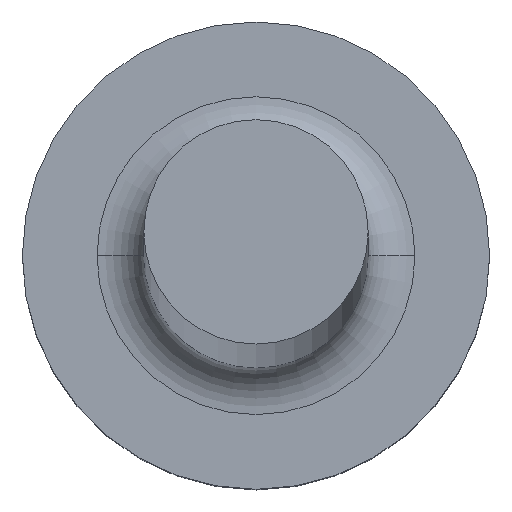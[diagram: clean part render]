
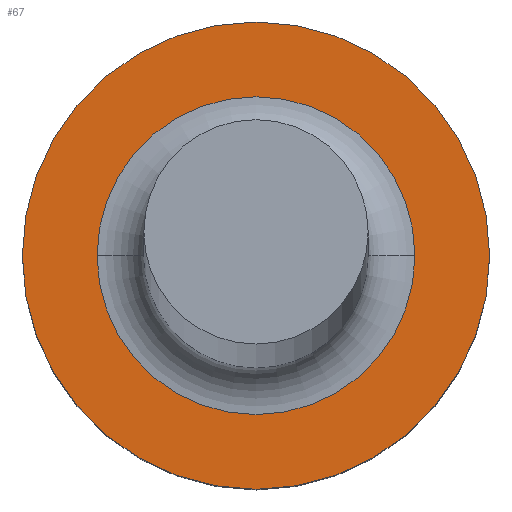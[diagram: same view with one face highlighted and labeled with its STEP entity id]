
A CAD part, top view. The second image highlights one B-rep face of the part: STEP entity #67.
In plain terms, the highlighted planar face has unit normal (0, 0, 1).
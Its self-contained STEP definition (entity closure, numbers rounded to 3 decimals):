
#2 = EDGE_CURVE ( 'NONE', #231, #187, #31, .T. ) ;
#3 = DIRECTION ( 'NONE',  ( -1., 0., 0. ) ) ;
#20 = AXIS2_PLACEMENT_3D ( 'NONE', #26, #47, #83 ) ;
#23 = CARTESIAN_POINT ( 'NONE',  ( 0., 0., 4. ) ) ;
#26 = CARTESIAN_POINT ( 'NONE',  ( 0., 0., 4. ) ) ;
#31 = CIRCLE ( 'NONE', #42, 2.5 ) ;
#35 = EDGE_CURVE ( 'NONE', #44, #251, #185, .T. ) ;
#37 = FACE_BOUND ( 'NONE', #227, .T. ) ;
#42 = AXIS2_PLACEMENT_3D ( 'NONE', #148, #211, #213 ) ;
#44 = VERTEX_POINT ( 'NONE', #111 ) ;
#46 = AXIS2_PLACEMENT_3D ( 'NONE', #193, #86, #3 ) ;
#47 = DIRECTION ( 'NONE',  ( 0., 0., -1. ) ) ;
#55 = CARTESIAN_POINT ( 'NONE',  ( 2.5, 0., 4. ) ) ;
#60 = ORIENTED_EDGE ( 'NONE', *, *, #80, .T. ) ;
#62 = ORIENTED_EDGE ( 'NONE', *, *, #2, .F. ) ;
#63 = AXIS2_PLACEMENT_3D ( 'NONE', #23, #69, #89 ) ;
#67 = ADVANCED_FACE ( 'NONE', ( #37, #71 ), #168, .F. ) ;
#69 = DIRECTION ( 'NONE',  ( 0., 0., -1. ) ) ;
#71 = FACE_OUTER_BOUND ( 'NONE', #96, .T. ) ;
#80 = EDGE_CURVE ( 'NONE', #251, #44, #268, .T. ) ;
#83 = DIRECTION ( 'NONE',  ( -1., 0., 0. ) ) ;
#86 = DIRECTION ( 'NONE',  ( 0., 0., -1. ) ) ;
#89 = DIRECTION ( 'NONE',  ( -1., 0., 0. ) ) ;
#96 = EDGE_LOOP ( 'NONE', ( #62, #143 ) ) ;
#111 = CARTESIAN_POINT ( 'NONE',  ( 1.7, 0., 4. ) ) ;
#119 = CARTESIAN_POINT ( 'NONE',  ( 0., 0., 4. ) ) ;
#143 = ORIENTED_EDGE ( 'NONE', *, *, #270, .F. ) ;
#148 = CARTESIAN_POINT ( 'NONE',  ( 0., 0., 4. ) ) ;
#150 = CARTESIAN_POINT ( 'NONE',  ( -1.7, 0., 4. ) ) ;
#156 = DIRECTION ( 'NONE',  ( -1., 0., 0. ) ) ;
#168 = PLANE ( 'NONE',  #46 ) ;
#184 = DIRECTION ( 'NONE',  ( 0., 0., -1. ) ) ;
#185 = CIRCLE ( 'NONE', #20, 1.7 ) ;
#187 = VERTEX_POINT ( 'NONE', #55 ) ;
#193 = CARTESIAN_POINT ( 'NONE',  ( 2.5, 0., 4. ) ) ;
#211 = DIRECTION ( 'NONE',  ( 0., 0., -1. ) ) ;
#213 = DIRECTION ( 'NONE',  ( -1., 0., 0. ) ) ;
#220 = ORIENTED_EDGE ( 'NONE', *, *, #35, .T. ) ;
#227 = EDGE_LOOP ( 'NONE', ( #60, #220 ) ) ;
#231 = VERTEX_POINT ( 'NONE', #236 ) ;
#236 = CARTESIAN_POINT ( 'NONE',  ( -2.5, 0., 4. ) ) ;
#237 = AXIS2_PLACEMENT_3D ( 'NONE', #119, #184, #156 ) ;
#249 = CIRCLE ( 'NONE', #237, 2.5 ) ;
#251 = VERTEX_POINT ( 'NONE', #150 ) ;
#268 = CIRCLE ( 'NONE', #63, 1.7 ) ;
#270 = EDGE_CURVE ( 'NONE', #187, #231, #249, .T. ) ;
